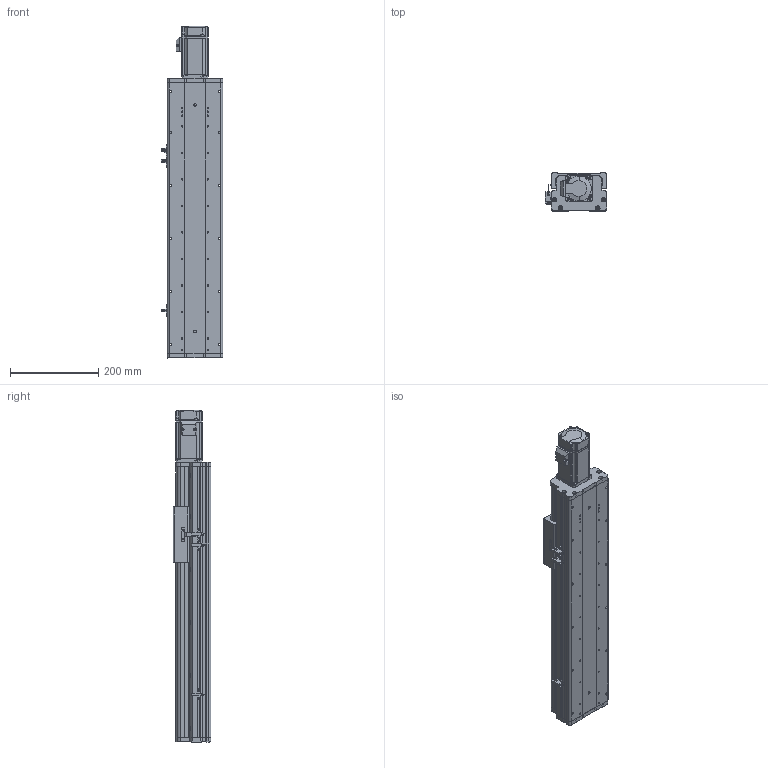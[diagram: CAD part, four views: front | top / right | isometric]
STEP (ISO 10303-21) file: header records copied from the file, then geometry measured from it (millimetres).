
FILE_DESCRIPTION (( 'STEP AP214' ), '1' );
FILE_NAME ('KSD125S-S350-MN-CM.STEP', '2017-08-07T06:09:54', ( '微软用户' ), ( '微软中国' ), 'SwSTEP 2.0', 'SolidWorks 2014', '' );
FILE_SCHEMA (( 'AUTOMOTIVE_DESIGN' ));
Length unit declared in the file: millimetre
Products named in the file (12): 覜茼え68遵圉猾敕; U倰嫖萇假蚾璃; U倰嫖萇EEㄜSX672; KSD125-賑雄釱1; CS-34X32-10X14; 125-帣傷啣1; KSD125S-S350-MN-CM; KSD125S-350行程丝杆防尘盖-直连不带电机座; KSD125S-350行程丝杆底板-直连不带电机座; 125宽模组 - 直连不带电机座电机安装板; MHMD042G1CA_2_03; 拸萇儂釱滅袉菜
Assembly tree (15 placements, depth 2):
  KSD125S-S350-MN-CM
    125-帣傷啣1
    CS-34X32-10X14
    KSD125-賑雄釱1
    U倰嫖萇EEㄜSX672  x3
    U倰嫖萇假蚾璃  x3
    覜茼え68遵圉猾敕
    拸萇儂釱滅袉菜
    MHMD042G1CA_2_03
    125宽模组 - 直连不带电机座电机安装板
    KSD125S-350行程丝杆底板-直连不带电机座
    KSD125S-350行程丝杆防尘盖-直连不带电机座
Bounding box: 138.7 x 86 x 751.5 mm (x, y, z)
Volume: 2251822.9 mm3; surface area: 751924.1 mm2
Topology: 14 solids, 17 shells, 1428 faces, 4131 edges, 2717 vertices
Faces by surface type: cylinder 700, plane 615, cone 91, bspline 22
Entity records: 50100 total; most frequent: CARTESIAN_POINT 10746, DIRECTION 7083, ORIENTED_EDGE 6770, EDGE_CURVE 3463, AXIS2_PLACEMENT_3D 2588, VERTEX_POINT 2309, VECTOR 1907, LINE 1907
